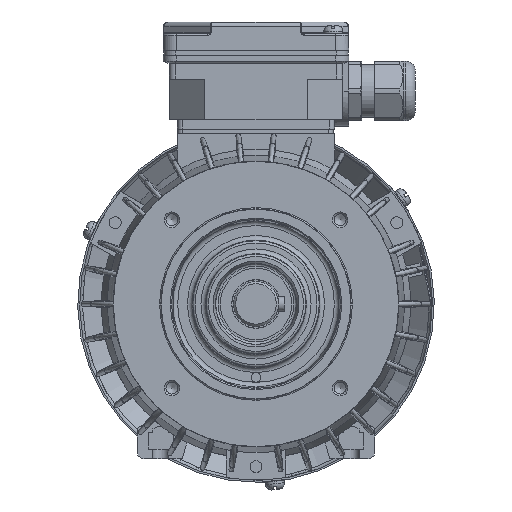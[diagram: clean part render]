
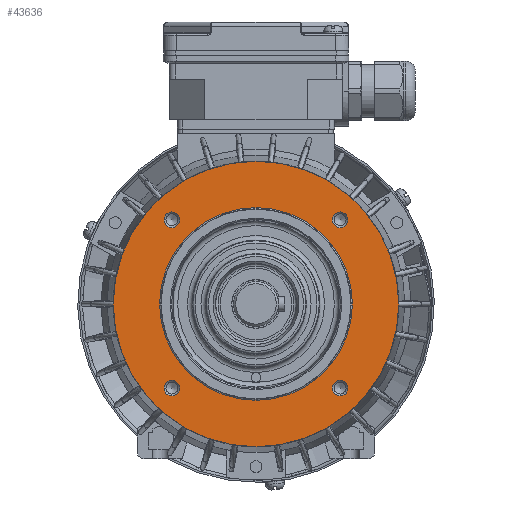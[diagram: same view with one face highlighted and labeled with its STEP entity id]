
A CAD part, left-side view. The second image highlights one B-rep face of the part: STEP entity #43636.
In plain terms, the highlighted planar face has unit normal (-1, 0, 0).
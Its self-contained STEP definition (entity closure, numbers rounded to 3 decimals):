
#8815=PLANE('',#63569);
#11619=ORIENTED_EDGE('',*,*,#24584,.T.);
#11620=ORIENTED_EDGE('',*,*,#24583,.T.);
#11621=ORIENTED_EDGE('',*,*,#24582,.T.);
#11622=ORIENTED_EDGE('',*,*,#24581,.T.);
#11623=ORIENTED_EDGE('',*,*,#24805,.T.);
#11624=ORIENTED_EDGE('',*,*,#24738,.T.);
#24581=EDGE_CURVE('',#31234,#31234,#35593,.F.);
#24582=EDGE_CURVE('',#31235,#31235,#35594,.F.);
#24583=EDGE_CURVE('',#31236,#31236,#35595,.F.);
#24584=EDGE_CURVE('',#31237,#31237,#35596,.F.);
#24738=EDGE_CURVE('',#31383,#31383,#35626,.T.);
#24805=EDGE_CURVE('',#31416,#31416,#35669,.F.);
#31234=VERTEX_POINT('',#80767);
#31235=VERTEX_POINT('',#80770);
#31236=VERTEX_POINT('',#80773);
#31237=VERTEX_POINT('',#80776);
#31383=VERTEX_POINT('',#83095);
#31416=VERTEX_POINT('',#83542);
#35593=CIRCLE('',#63481,3.3);
#35594=CIRCLE('',#63483,3.3);
#35595=CIRCLE('',#63485,3.3);
#35596=CIRCLE('',#63487,3.3);
#35626=CIRCLE('',#63520,60.);
#35669=CIRCLE('',#63570,40.5);
#37658=EDGE_LOOP('',(#11619));
#37659=EDGE_LOOP('',(#11620));
#37660=EDGE_LOOP('',(#11621));
#37661=EDGE_LOOP('',(#11622));
#37662=EDGE_LOOP('',(#11623));
#37663=EDGE_LOOP('',(#11624));
#40652=FACE_BOUND('',#37658,.T.);
#40653=FACE_BOUND('',#37659,.T.);
#40654=FACE_BOUND('',#37660,.T.);
#40655=FACE_BOUND('',#37661,.T.);
#40656=FACE_BOUND('',#37662,.T.);
#40657=FACE_BOUND('',#37663,.T.);
#43636=ADVANCED_FACE('',(#40652,#40653,#40654,#40655,#40656,#40657),#8815,
 .T.);
#63481=AXIS2_PLACEMENT_3D('',#80766,#68291,#68292);
#63483=AXIS2_PLACEMENT_3D('',#80769,#68295,#68296);
#63485=AXIS2_PLACEMENT_3D('',#80772,#68299,#68300);
#63487=AXIS2_PLACEMENT_3D('',#80775,#68303,#68304);
#63520=AXIS2_PLACEMENT_3D('',#83094,#68377,#68378);
#63569=AXIS2_PLACEMENT_3D('',#83540,#68483,#68484);
#63570=AXIS2_PLACEMENT_3D('',#83541,#68485,#68486);
#68291=DIRECTION('',(-1.,0.,0.));
#68292=DIRECTION('',(0.,0.,-1.));
#68295=DIRECTION('',(-1.,0.,0.));
#68296=DIRECTION('',(0.,0.,-1.));
#68299=DIRECTION('',(-1.,0.,0.));
#68300=DIRECTION('',(0.,0.,-1.));
#68303=DIRECTION('',(-1.,0.,0.));
#68304=DIRECTION('',(0.,0.,-1.));
#68377=DIRECTION('',(-1.,0.,0.));
#68378=DIRECTION('',(0.,0.,-1.));
#68483=DIRECTION('',(-1.,0.,0.));
#68484=DIRECTION('',(0.,0.,-1.));
#68485=DIRECTION('',(-1.,0.,0.));
#68486=DIRECTION('',(0.,0.,-1.));
#80766=CARTESIAN_POINT('',(-44.8,35.355,35.355));
#80767=CARTESIAN_POINT('',(-44.8,35.355,32.055));
#80769=CARTESIAN_POINT('',(-44.8,-35.355,35.355));
#80770=CARTESIAN_POINT('',(-44.8,-35.355,32.055));
#80772=CARTESIAN_POINT('',(-44.8,-35.355,-35.355));
#80773=CARTESIAN_POINT('',(-44.8,-35.355,-38.655));
#80775=CARTESIAN_POINT('',(-44.8,35.355,-35.355));
#80776=CARTESIAN_POINT('',(-44.8,35.355,-38.655));
#83094=CARTESIAN_POINT('',(-44.8,0.,0.));
#83095=CARTESIAN_POINT('',(-44.8,0.,-60.));
#83540=CARTESIAN_POINT('',(-44.8,0.,40.));
#83541=CARTESIAN_POINT('',(-44.8,0.,0.));
#83542=CARTESIAN_POINT('',(-44.8,0.,-40.5));
